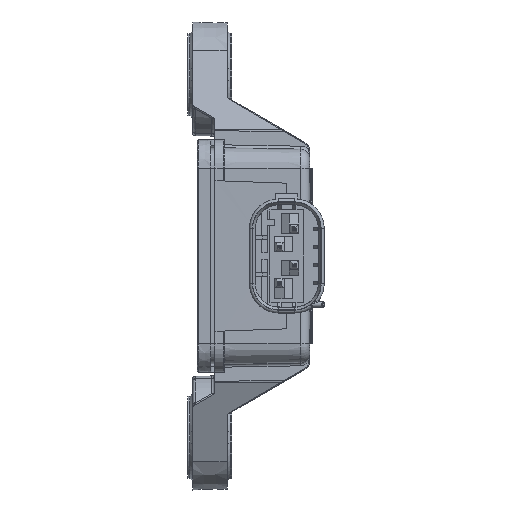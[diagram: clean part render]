
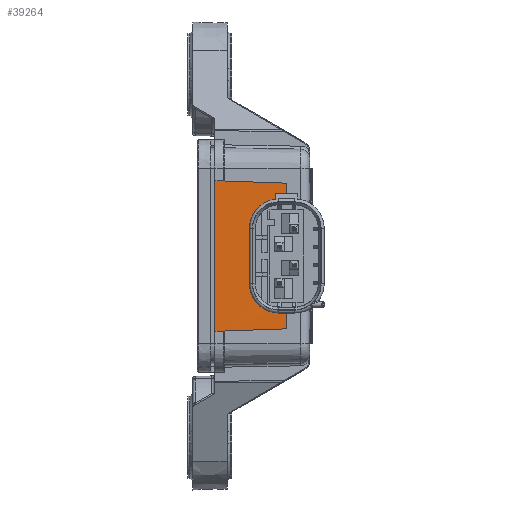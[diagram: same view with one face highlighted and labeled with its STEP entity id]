
A CAD part, left-side view. The second image highlights one B-rep face of the part: STEP entity #39264.
In plain terms, the highlighted planar face has unit normal (-1, 0, 0).
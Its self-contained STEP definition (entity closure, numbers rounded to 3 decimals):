
#214=DIRECTION('',(0.,0.,1.));
#215=VECTOR('',#214,25.759);
#216=CARTESIAN_POINT('',(-18.6,0.3,-12.88));
#217=LINE('1619',#216,#215);
#8423=DIRECTION('',(-0.002,0.999,0.035));
#8424=VECTOR('',#8423,10.804);
#8425=CARTESIAN_POINT('',(-18.6,-12.,12.45));
#8426=LINE('4496',#8425,#8424);
#8427=DIRECTION('',(0.,0.,1.));
#8428=VECTOR('',#8427,2.7);
#8429=CARTESIAN_POINT('',(-18.6,-12.,9.75));
#8430=LINE('4485',#8429,#8428);
#8431=DIRECTION('',(0.,0.,1.));
#8432=VECTOR('',#8431,2.7);
#8433=CARTESIAN_POINT('',(-18.6,-12.,-12.45));
#8434=LINE('4486',#8433,#8432);
#8435=DIRECTION('',(0.002,-0.999,0.035));
#8436=VECTOR('',#8435,10.804);
#8437=CARTESIAN_POINT('',(-18.619,-1.202,
-12.827));
#8438=LINE('4497',#8437,#8436);
#8439=DIRECTION('',(-0.013,-0.999,0.035));
#8440=VECTOR('',#8439,1.503);
#8441=CARTESIAN_POINT('',(-18.6,0.3,-12.88));
#8442=LINE('1629',#8441,#8440);
#8443=DIRECTION('',(0.013,0.999,0.035));
#8444=VECTOR('',#8443,1.503);
#8445=CARTESIAN_POINT('',(-18.619,-1.202,
12.827));
#8446=LINE('1628',#8445,#8444);
#8471=DIRECTION('',(0.,-1.,0.));
#8472=VECTOR('',#8471,1.375);
#8473=CARTESIAN_POINT('',(-18.6,-10.625,9.75));
#8474=LINE('3986',#8473,#8472);
#8888=DIRECTION('',(0.,-1.,0.));
#8889=VECTOR('',#8888,1.375);
#8890=CARTESIAN_POINT('',(-18.6,-10.625,-9.75));
#8891=LINE('3982',#8890,#8889);
#9000=CARTESIAN_POINT('',(-18.6,-10.625,-4.75));
#9001=DIRECTION('',(1.,0.,0.));
#9002=DIRECTION('',(0.,0.,-1.));
#9003=AXIS2_PLACEMENT_3D('',#9000,#9001,#9002);
#9014=DIRECTION('',(0.,0.,1.));
#9015=VECTOR('',#9014,9.5);
#9016=CARTESIAN_POINT('',(-18.6,-5.625,-4.75));
#9017=LINE('3984',#9016,#9015);
#9026=CARTESIAN_POINT('',(-18.6,-10.625,4.75));
#9027=DIRECTION('',(1.,0.,0.));
#9028=DIRECTION('',(0.,1.,0.));
#9029=AXIS2_PLACEMENT_3D('',#9026,#9027,#9028);
#20520=CARTESIAN_POINT('',(-18.6,0.3,-12.88));
#20521=CARTESIAN_POINT('',(-18.6,0.3,12.88));
#20522=VERTEX_POINT('',#20520);
#20523=VERTEX_POINT('',#20521);
#20532=CARTESIAN_POINT('',(-18.619,-1.202,
12.827));
#20533=VERTEX_POINT('',#20532);
#20534=CARTESIAN_POINT('',(-18.619,-1.202,
-12.827));
#20535=VERTEX_POINT('',#20534);
#22979=CARTESIAN_POINT('',(-18.6,-10.625,-9.75));
#22980=CARTESIAN_POINT('',(-18.6,-12.,-9.75));
#22981=VERTEX_POINT('',#22979);
#22982=VERTEX_POINT('',#22980);
#22983=CARTESIAN_POINT('',(-18.6,-5.625,-4.75));
#22984=VERTEX_POINT('',#22983);
#22985=CARTESIAN_POINT('',(-18.6,-5.625,4.75));
#22986=VERTEX_POINT('',#22985);
#22987=CARTESIAN_POINT('',(-18.6,-10.625,9.75));
#22988=VERTEX_POINT('',#22987);
#22989=CARTESIAN_POINT('',(-18.6,-12.,9.75));
#22990=VERTEX_POINT('',#22989);
#23354=CARTESIAN_POINT('',(-18.6,-12.,12.45));
#23355=VERTEX_POINT('',#23354);
#23356=CARTESIAN_POINT('',(-18.6,-12.,-12.45));
#23357=VERTEX_POINT('',#23356);
#39235=CARTESIAN_POINT('',(-18.6,0.,0.));
#39236=DIRECTION('',(-1.,0.,0.));
#39237=DIRECTION('',(0.,-1.,0.));
#39238=AXIS2_PLACEMENT_3D('',#39235,#39236,#39237);
#39239=PLANE('150',#39238);
#39241=ORIENTED_EDGE('4496',*,*,#39240,.F.);
#39243=ORIENTED_EDGE('4485',*,*,#39242,.F.);
#39245=ORIENTED_EDGE('3986',*,*,#39244,.F.);
#39247=ORIENTED_EDGE('3985',*,*,#39246,.F.);
#39249=ORIENTED_EDGE('3984',*,*,#39248,.F.);
#39251=ORIENTED_EDGE('3983',*,*,#39250,.F.);
#39253=ORIENTED_EDGE('3982',*,*,#39252,.T.);
#39255=ORIENTED_EDGE('4486',*,*,#39254,.F.);
#39257=ORIENTED_EDGE('4497',*,*,#39256,.F.);
#39258=ORIENTED_EDGE('1629',*,*,#39223,.F.);
#39259=ORIENTED_EDGE('1619',*,*,#24246,.T.);
#39261=ORIENTED_EDGE('1628',*,*,#39260,.F.);
#39262=EDGE_LOOP('150',(#39241,#39243,#39245,#39247,#39249,#39251,#39253,#39255,
#39257,#39258,#39259,#39261));
#39263=FACE_OUTER_BOUND('150',#39262,.F.);
#39264=ADVANCED_FACE('150',(#39263),#39239,.T.);
#9004=CIRCLE('3983',#9003,5.);
#9030=CIRCLE('3985',#9029,5.);
#24246=EDGE_CURVE('1619',#20522,#20523,#217,.T.);
#39223=EDGE_CURVE('1629',#20522,#20535,#8442,.T.);
#39240=EDGE_CURVE('4496',#23355,#20533,#8426,.T.);
#39242=EDGE_CURVE('4485',#22990,#23355,#8430,.T.);
#39244=EDGE_CURVE('3986',#22988,#22990,#8474,.T.);
#39246=EDGE_CURVE('3985',#22986,#22988,#9030,.T.);
#39248=EDGE_CURVE('3984',#22984,#22986,#9017,.T.);
#39250=EDGE_CURVE('3983',#22981,#22984,#9004,.T.);
#39252=EDGE_CURVE('3982',#22981,#22982,#8891,.T.);
#39254=EDGE_CURVE('4486',#23357,#22982,#8434,.T.);
#39256=EDGE_CURVE('4497',#20535,#23357,#8438,.T.);
#39260=EDGE_CURVE('1628',#20533,#20523,#8446,.T.);
